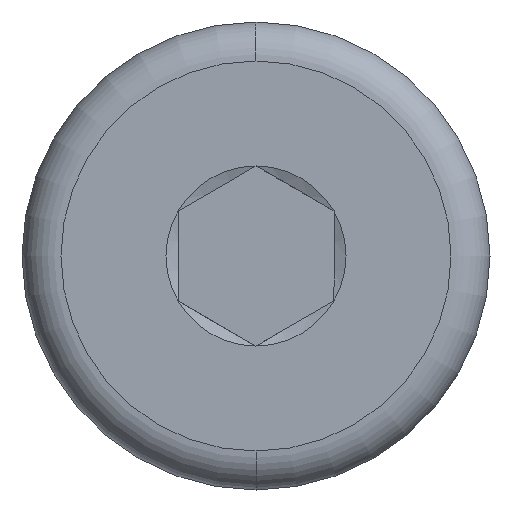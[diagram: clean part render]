
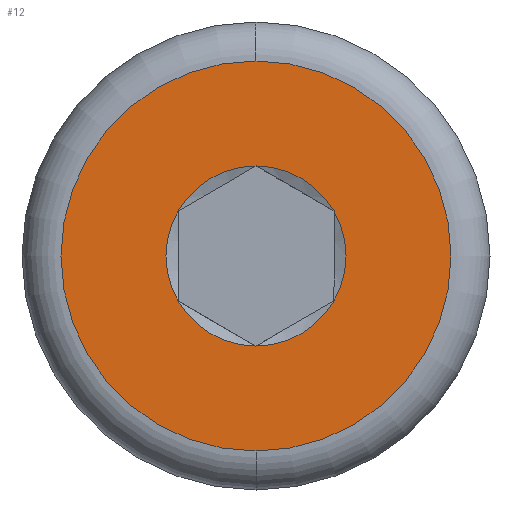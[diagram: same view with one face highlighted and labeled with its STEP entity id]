
A CAD part, left-side view. The second image highlights one B-rep face of the part: STEP entity #12.
In plain terms, the highlighted planar face has unit normal (-1, 0, 0).
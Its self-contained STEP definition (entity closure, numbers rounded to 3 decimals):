
#3 = CARTESIAN_POINT ( 'NONE',  ( 0., 0., 1.155 ) ) ;
#12 = ADVANCED_FACE ( 'NONE', ( #317, #413 ), #476, .T. ) ;
#13 = ORIENTED_EDGE ( 'NONE', *, *, #534, .F. ) ;
#26 = CARTESIAN_POINT ( 'NONE',  ( 0., -1., 0.577 ) ) ;
#30 = CIRCLE ( 'NONE', #184, 1.155 ) ;
#43 = CARTESIAN_POINT ( 'NONE',  ( 0., 0., 0. ) ) ;
#47 = CARTESIAN_POINT ( 'NONE',  ( 0., 0., 0. ) ) ;
#53 = DIRECTION ( 'NONE',  ( -1., 0., 0. ) ) ;
#56 = CARTESIAN_POINT ( 'NONE',  ( 0., 0., 0. ) ) ;
#73 = AXIS2_PLACEMENT_3D ( 'NONE', #187, #609, #180 ) ;
#76 = CARTESIAN_POINT ( 'NONE',  ( 0., 1., 0.577 ) ) ;
#85 = ORIENTED_EDGE ( 'NONE', *, *, #577, .F. ) ;
#88 = EDGE_CURVE ( 'NONE', #510, #89, #436, .T. ) ;
#89 = VERTEX_POINT ( 'NONE', #3 ) ;
#97 = AXIS2_PLACEMENT_3D ( 'NONE', #362, #260, #573 ) ;
#102 = DIRECTION ( 'NONE',  ( 0., 0., -1. ) ) ;
#109 = DIRECTION ( 'NONE',  ( 0., 0., -1. ) ) ;
#130 = VERTEX_POINT ( 'NONE', #627 ) ;
#145 = ORIENTED_EDGE ( 'NONE', *, *, #353, .T. ) ;
#155 = CARTESIAN_POINT ( 'NONE',  ( 0., 1., -0.577 ) ) ;
#159 = CIRCLE ( 'NONE', #371, 1.155 ) ;
#177 = AXIS2_PLACEMENT_3D ( 'NONE', #56, #53, #419 ) ;
#180 = DIRECTION ( 'NONE',  ( 0., 0., -1. ) ) ;
#184 = AXIS2_PLACEMENT_3D ( 'NONE', #521, #253, #471 ) ;
#187 = CARTESIAN_POINT ( 'NONE',  ( 0., 0., 0. ) ) ;
#192 = ORIENTED_EDGE ( 'NONE', *, *, #359, .T. ) ;
#201 = DIRECTION ( 'NONE',  ( 0., 0., -1. ) ) ;
#210 = VERTEX_POINT ( 'NONE', #26 ) ;
#222 = VERTEX_POINT ( 'NONE', #397 ) ;
#225 = AXIS2_PLACEMENT_3D ( 'NONE', #673, #479, #109 ) ;
#250 = EDGE_LOOP ( 'NONE', ( #386, #407, #145, #430, #192, #666 ) ) ;
#253 = DIRECTION ( 'NONE',  ( 1., 0., 0. ) ) ;
#260 = DIRECTION ( 'NONE',  ( 1., 0., 0. ) ) ;
#271 = EDGE_CURVE ( 'NONE', #591, #510, #159, .T. ) ;
#281 = AXIS2_PLACEMENT_3D ( 'NONE', #43, #565, #102 ) ;
#317 = FACE_BOUND ( 'NONE', #250, .T. ) ;
#348 = CIRCLE ( 'NONE', #493, 2.5 ) ;
#353 = EDGE_CURVE ( 'NONE', #210, #647, #548, .T. ) ;
#359 = EDGE_CURVE ( 'NONE', #130, #591, #30, .T. ) ;
#362 = CARTESIAN_POINT ( 'NONE',  ( 0., 0., 0. ) ) ;
#371 = AXIS2_PLACEMENT_3D ( 'NONE', #447, #653, #393 ) ;
#375 = CIRCLE ( 'NONE', #73, 2.5 ) ;
#383 = EDGE_LOOP ( 'NONE', ( #85, #13 ) ) ;
#386 = ORIENTED_EDGE ( 'NONE', *, *, #88, .T. ) ;
#393 = DIRECTION ( 'NONE',  ( 0., 0., -1. ) ) ;
#397 = CARTESIAN_POINT ( 'NONE',  ( 0., 0., -2.5 ) ) ;
#407 = ORIENTED_EDGE ( 'NONE', *, *, #648, .T. ) ;
#413 = FACE_OUTER_BOUND ( 'NONE', #383, .T. ) ;
#419 = DIRECTION ( 'NONE',  ( 0., 0., 1. ) ) ;
#430 = ORIENTED_EDGE ( 'NONE', *, *, #679, .T. ) ;
#436 = CIRCLE ( 'NONE', #225, 1.155 ) ;
#447 = CARTESIAN_POINT ( 'NONE',  ( 0., 0., 0. ) ) ;
#465 = VERTEX_POINT ( 'NONE', #507 ) ;
#471 = DIRECTION ( 'NONE',  ( 0., 0., -1. ) ) ;
#476 = PLANE ( 'NONE',  #177 ) ;
#479 = DIRECTION ( 'NONE',  ( 1., 0., 0. ) ) ;
#493 = AXIS2_PLACEMENT_3D ( 'NONE', #576, #680, #667 ) ;
#507 = CARTESIAN_POINT ( 'NONE',  ( 0., 0., 2.5 ) ) ;
#510 = VERTEX_POINT ( 'NONE', #76 ) ;
#521 = CARTESIAN_POINT ( 'NONE',  ( 0., 0., 0. ) ) ;
#523 = DIRECTION ( 'NONE',  ( 1., 0., 0. ) ) ;
#534 = EDGE_CURVE ( 'NONE', #465, #222, #375, .T. ) ;
#548 = CIRCLE ( 'NONE', #97, 1.155 ) ;
#565 = DIRECTION ( 'NONE',  ( 1., 0., 0. ) ) ;
#570 = CIRCLE ( 'NONE', #643, 1.155 ) ;
#573 = DIRECTION ( 'NONE',  ( 0., 0., -1. ) ) ;
#576 = CARTESIAN_POINT ( 'NONE',  ( 0., 0., 0. ) ) ;
#577 = EDGE_CURVE ( 'NONE', #222, #465, #348, .T. ) ;
#582 = CIRCLE ( 'NONE', #281, 1.155 ) ;
#591 = VERTEX_POINT ( 'NONE', #155 ) ;
#609 = DIRECTION ( 'NONE',  ( 1., 0., 0. ) ) ;
#627 = CARTESIAN_POINT ( 'NONE',  ( 0., 0., -1.155 ) ) ;
#643 = AXIS2_PLACEMENT_3D ( 'NONE', #47, #523, #201 ) ;
#647 = VERTEX_POINT ( 'NONE', #671 ) ;
#648 = EDGE_CURVE ( 'NONE', #89, #210, #582, .T. ) ;
#653 = DIRECTION ( 'NONE',  ( 1., 0., 0. ) ) ;
#666 = ORIENTED_EDGE ( 'NONE', *, *, #271, .T. ) ;
#667 = DIRECTION ( 'NONE',  ( 0., 0., -1. ) ) ;
#671 = CARTESIAN_POINT ( 'NONE',  ( 0., -1., -0.577 ) ) ;
#673 = CARTESIAN_POINT ( 'NONE',  ( 0., 0., 0. ) ) ;
#679 = EDGE_CURVE ( 'NONE', #647, #130, #570, .T. ) ;
#680 = DIRECTION ( 'NONE',  ( 1., 0., 0. ) ) ;
